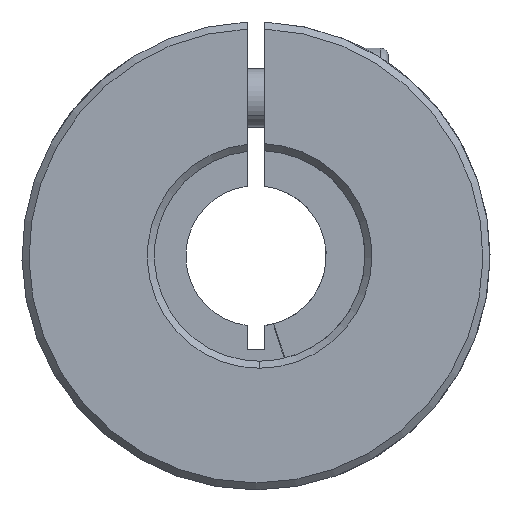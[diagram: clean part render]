
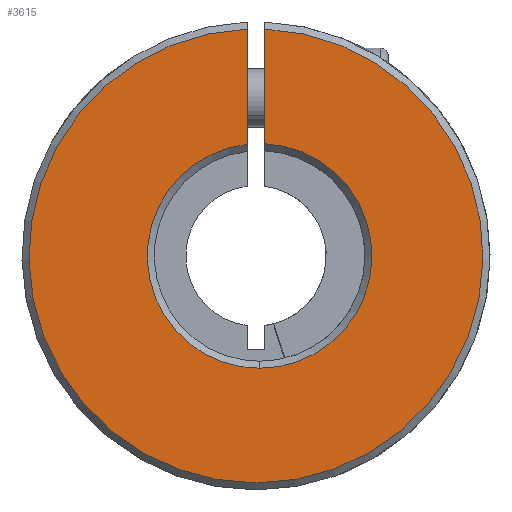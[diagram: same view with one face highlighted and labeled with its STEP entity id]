
A CAD part, front view. The second image highlights one B-rep face of the part: STEP entity #3615.
In plain terms, the highlighted planar face has unit normal (0, -1, 0).
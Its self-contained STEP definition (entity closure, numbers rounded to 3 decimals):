
#68 = DIRECTION ( 'NONE',  ( 0., 0., -1. ) ) ;
#83 = VECTOR ( 'NONE', #68, 1000. ) ;
#261 = VERTEX_POINT ( 'NONE', #3555 ) ;
#301 = VERTEX_POINT ( 'NONE', #1517 ) ;
#426 = AXIS2_PLACEMENT_3D ( 'NONE', #5855, #1216, #1705 ) ;
#704 = DIRECTION ( 'NONE',  ( 0., 0., 1. ) ) ;
#708 = VERTEX_POINT ( 'NONE', #3427 ) ;
#731 = PLANE ( 'NONE',  #5075 ) ;
#733 = DIRECTION ( 'NONE',  ( 0., 0., 1. ) ) ;
#773 = VERTEX_POINT ( 'NONE', #3007 ) ;
#1104 = EDGE_CURVE ( 'NONE', #301, #708, #5087, .T. ) ;
#1216 = DIRECTION ( 'NONE',  ( 0., 1., 0. ) ) ;
#1517 = CARTESIAN_POINT ( 'NONE',  ( 0.75, -30., 19.385 ) ) ;
#1687 = AXIS2_PLACEMENT_3D ( 'NONE', #2071, #5469, #3126 ) ;
#1705 = DIRECTION ( 'NONE',  ( 0., 0., 1. ) ) ;
#2071 = CARTESIAN_POINT ( 'NONE',  ( 0.314, -30., 0. ) ) ;
#2080 = FACE_OUTER_BOUND ( 'NONE', #5040, .T. ) ;
#2144 = DIRECTION ( 'NONE',  ( 0., 0., 1. ) ) ;
#2206 = ORIENTED_EDGE ( 'NONE', *, *, #1104, .T. ) ;
#2345 = CIRCLE ( 'NONE', #1687, 9.6 ) ;
#2570 = ORIENTED_EDGE ( 'NONE', *, *, #4843, .T. ) ;
#2590 = EDGE_CURVE ( 'NONE', #773, #301, #4072, .T. ) ;
#2615 = LINE ( 'NONE', #2991, #5464 ) ;
#2991 = CARTESIAN_POINT ( 'NONE',  ( -0.75, -30., -8. ) ) ;
#3007 = CARTESIAN_POINT ( 'NONE',  ( -0.75, -30., 19.385 ) ) ;
#3126 = DIRECTION ( 'NONE',  ( 0., 0., 1. ) ) ;
#3308 = CIRCLE ( 'NONE', #426, 9.6 ) ;
#3323 = CARTESIAN_POINT ( 'NONE',  ( 0., -30., 0. ) ) ;
#3358 = CARTESIAN_POINT ( 'NONE',  ( 0.314, -30., -9.6 ) ) ;
#3427 = CARTESIAN_POINT ( 'NONE',  ( 0.75, -30., 9.59 ) ) ;
#3436 = DIRECTION ( 'NONE',  ( 0., 1., 0. ) ) ;
#3555 = CARTESIAN_POINT ( 'NONE',  ( -0.75, -30., 9.541 ) ) ;
#3615 = ADVANCED_FACE ( 'NONE', ( #2080 ), #731, .F. ) ;
#3629 = ORIENTED_EDGE ( 'NONE', *, *, #4842, .T. ) ;
#4072 = CIRCLE ( 'NONE', #5428, 19.4 ) ;
#4093 = EDGE_CURVE ( 'NONE', #5498, #261, #2345, .T. ) ;
#4226 = CARTESIAN_POINT ( 'NONE',  ( 0.75, -30., -8. ) ) ;
#4578 = ORIENTED_EDGE ( 'NONE', *, *, #2590, .T. ) ;
#4827 = DIRECTION ( 'NONE',  ( 0., -1., 0. ) ) ;
#4842 = EDGE_CURVE ( 'NONE', #261, #773, #2615, .T. ) ;
#4843 = EDGE_CURVE ( 'NONE', #708, #5498, #3308, .T. ) ;
#4943 = CARTESIAN_POINT ( 'NONE',  ( 0., -30., 0. ) ) ;
#5040 = EDGE_LOOP ( 'NONE', ( #2206, #2570, #5691, #3629, #4578 ) ) ;
#5075 = AXIS2_PLACEMENT_3D ( 'NONE', #4943, #3436, #2144 ) ;
#5087 = LINE ( 'NONE', #4226, #83 ) ;
#5428 = AXIS2_PLACEMENT_3D ( 'NONE', #3323, #4827, #704 ) ;
#5464 = VECTOR ( 'NONE', #733, 1000. ) ;
#5469 = DIRECTION ( 'NONE',  ( 0., 1., 0. ) ) ;
#5498 = VERTEX_POINT ( 'NONE', #3358 ) ;
#5691 = ORIENTED_EDGE ( 'NONE', *, *, #4093, .T. ) ;
#5855 = CARTESIAN_POINT ( 'NONE',  ( 0.314, -30., 0. ) ) ;
